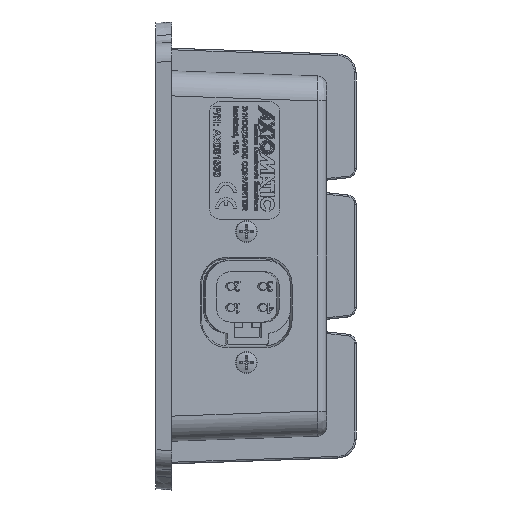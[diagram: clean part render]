
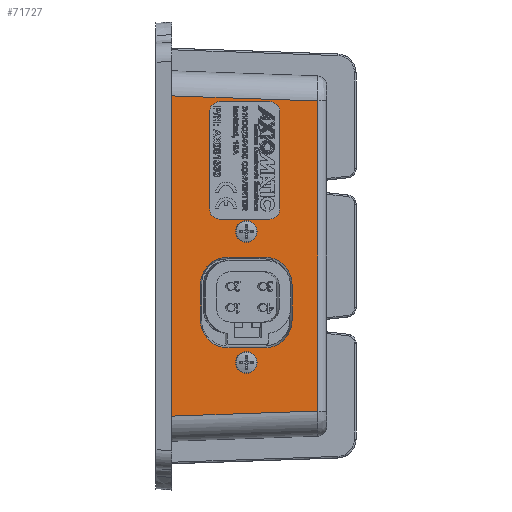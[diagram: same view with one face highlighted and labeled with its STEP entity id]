
A CAD part, left-side view. The second image highlights one B-rep face of the part: STEP entity #71727.
In plain terms, the highlighted planar face has unit normal (-0.999, -0.035, 0).
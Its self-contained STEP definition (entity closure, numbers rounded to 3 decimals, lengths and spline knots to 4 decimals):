
#5085=LINE('',#134242,#10849);
#5088=LINE('',#134250,#10852);
#5091=LINE('',#134258,#10855);
#5094=LINE('',#134265,#10858);
#5205=LINE('',#135441,#10969);
#5208=LINE('',#135452,#10972);
#5212=LINE('',#135464,#10976);
#5216=LINE('',#135478,#10980);
#5368=LINE('',#135853,#11132);
#5369=LINE('',#135855,#11133);
#5370=LINE('',#135857,#11134);
#5371=LINE('',#135858,#11135);
#10849=VECTOR('',#88045,1.21);
#10852=VECTOR('',#88054,0.625);
#10855=VECTOR('',#88063,1.21);
#10858=VECTOR('',#88072,0.625);
#10969=VECTOR('',#88499,0.444);
#10972=VECTOR('',#88510,0.456);
#10976=VECTOR('',#88522,0.444);
#10980=VECTOR('',#88536,0.456);
#11132=VECTOR('',#88828,1.8162);
#11133=VECTOR('',#88829,3.985);
#11134=VECTOR('',#88830,1.8162);
#11135=VECTOR('',#88831,3.8583);
#18223=PLANE('',#76267);
#20656=FACE_BOUND('',#27463,.T.);
#20657=FACE_BOUND('',#27464,.T.);
#20658=FACE_BOUND('',#27465,.T.);
#20659=FACE_BOUND('',#27466,.T.);
#20660=FACE_BOUND('',#27467,.T.);
#27463=EDGE_LOOP('',(#59793,#59794,#59795,#59796,#59797,#59798,#59799,#59800));
#27464=EDGE_LOOP('',(#59801));
#27465=EDGE_LOOP('',(#59802));
#27466=EDGE_LOOP('',(#59803,#59804,#59805,#59806));
#27467=EDGE_LOOP('',(#59807,#59808,#59809,#59810,#59811,#59812,#59813,#59814));
#29983=CIRCLE('',#76018,0.125);
#29984=CIRCLE('',#76021,0.125);
#29985=CIRCLE('',#76024,0.125);
#29986=CIRCLE('',#76027,0.125);
#30051=CIRCLE('',#76188,0.342);
#30053=CIRCLE('',#76192,0.342);
#30055=CIRCLE('',#76196,0.342);
#30058=CIRCLE('',#76201,0.342);
#30061=CIRCLE('',#76268,0.135);
#30062=CIRCLE('',#76269,0.135);
#34619=VERTEX_POINT('',#134235);
#34620=VERTEX_POINT('',#134236);
#34621=VERTEX_POINT('',#134241);
#34622=VERTEX_POINT('',#134245);
#34623=VERTEX_POINT('',#134249);
#34624=VERTEX_POINT('',#134253);
#34625=VERTEX_POINT('',#134257);
#34626=VERTEX_POINT('',#134261);
#34819=VERTEX_POINT('',#135435);
#34821=VERTEX_POINT('',#135439);
#34822=VERTEX_POINT('',#135443);
#34824=VERTEX_POINT('',#135449);
#34826=VERTEX_POINT('',#135455);
#34828=VERTEX_POINT('',#135461);
#34830=VERTEX_POINT('',#135467);
#34833=VERTEX_POINT('',#135475);
#34984=VERTEX_POINT('',#135847);
#34985=VERTEX_POINT('',#135849);
#34986=VERTEX_POINT('',#135851);
#34987=VERTEX_POINT('',#135852);
#34988=VERTEX_POINT('',#135854);
#34989=VERTEX_POINT('',#135856);
#43149=EDGE_CURVE('',#34619,#34620,#29983,.T.);
#43152=EDGE_CURVE('',#34620,#34621,#5085,.T.);
#43154=EDGE_CURVE('',#34621,#34622,#29984,.T.);
#43156=EDGE_CURVE('',#34622,#34623,#5088,.T.);
#43158=EDGE_CURVE('',#34623,#34624,#29985,.T.);
#43160=EDGE_CURVE('',#34624,#34625,#5091,.T.);
#43162=EDGE_CURVE('',#34625,#34626,#29986,.T.);
#43164=EDGE_CURVE('',#34626,#34619,#5094,.T.);
#43435=EDGE_CURVE('',#34819,#34821,#5205,.T.);
#43436=EDGE_CURVE('',#34822,#34821,#30051,.T.);
#43440=EDGE_CURVE('',#34822,#34824,#5208,.T.);
#43442=EDGE_CURVE('',#34826,#34824,#30053,.T.);
#43446=EDGE_CURVE('',#34826,#34828,#5212,.T.);
#43448=EDGE_CURVE('',#34830,#34828,#30055,.T.);
#43453=EDGE_CURVE('',#34830,#34833,#5216,.T.);
#43455=EDGE_CURVE('',#34819,#34833,#30058,.T.);
#43624=EDGE_CURVE('',#34984,#34984,#30061,.T.);
#43625=EDGE_CURVE('',#34985,#34985,#30062,.T.);
#43626=EDGE_CURVE('',#34986,#34987,#5368,.T.);
#43627=EDGE_CURVE('',#34986,#34988,#5369,.T.);
#43628=EDGE_CURVE('',#34989,#34988,#5370,.T.);
#43629=EDGE_CURVE('',#34987,#34989,#5371,.T.);
#59793=ORIENTED_EDGE('',*,*,#43149,.T.);
#59794=ORIENTED_EDGE('',*,*,#43152,.T.);
#59795=ORIENTED_EDGE('',*,*,#43154,.T.);
#59796=ORIENTED_EDGE('',*,*,#43156,.T.);
#59797=ORIENTED_EDGE('',*,*,#43158,.T.);
#59798=ORIENTED_EDGE('',*,*,#43160,.T.);
#59799=ORIENTED_EDGE('',*,*,#43162,.T.);
#59800=ORIENTED_EDGE('',*,*,#43164,.T.);
#59801=ORIENTED_EDGE('',*,*,#43624,.T.);
#59802=ORIENTED_EDGE('',*,*,#43625,.T.);
#59803=ORIENTED_EDGE('',*,*,#43626,.F.);
#59804=ORIENTED_EDGE('',*,*,#43627,.T.);
#59805=ORIENTED_EDGE('',*,*,#43628,.F.);
#59806=ORIENTED_EDGE('',*,*,#43629,.F.);
#59807=ORIENTED_EDGE('',*,*,#43446,.T.);
#59808=ORIENTED_EDGE('',*,*,#43448,.F.);
#59809=ORIENTED_EDGE('',*,*,#43453,.T.);
#59810=ORIENTED_EDGE('',*,*,#43455,.F.);
#59811=ORIENTED_EDGE('',*,*,#43435,.T.);
#59812=ORIENTED_EDGE('',*,*,#43436,.F.);
#59813=ORIENTED_EDGE('',*,*,#43440,.T.);
#59814=ORIENTED_EDGE('',*,*,#43442,.F.);
#71727=ADVANCED_FACE('',(#20656,#20657,#20658,#20659,#20660),#18223,.T.);
#76018=AXIS2_PLACEMENT_3D('',#134237,#88039,#88040);
#76021=AXIS2_PLACEMENT_3D('',#134246,#88049,#88050);
#76024=AXIS2_PLACEMENT_3D('',#134254,#88058,#88059);
#76027=AXIS2_PLACEMENT_3D('',#134262,#88067,#88068);
#76188=AXIS2_PLACEMENT_3D('',#135444,#88502,#88503);
#76192=AXIS2_PLACEMENT_3D('',#135456,#88514,#88515);
#76196=AXIS2_PLACEMENT_3D('',#135468,#88526,#88527);
#76201=AXIS2_PLACEMENT_3D('',#135481,#88540,#88541);
#76267=AXIS2_PLACEMENT_3D('',#135846,#88822,#88823);
#76268=AXIS2_PLACEMENT_3D('',#135848,#88824,#88825);
#76269=AXIS2_PLACEMENT_3D('',#135850,#88826,#88827);
#88039=DIRECTION('center_axis',(0.999,0.035,0.));
#88040=DIRECTION('ref_axis',(-0.035,0.999,0.));
#88045=DIRECTION('',(0.,0.,1.));
#88049=DIRECTION('center_axis',(0.999,0.035,0.));
#88050=DIRECTION('ref_axis',(0.,0.,
1.));
#88054=DIRECTION('',(0.035,-0.999,0.));
#88058=DIRECTION('center_axis',(0.999,0.035,0.));
#88059=DIRECTION('ref_axis',(0.035,-0.999,0.));
#88063=DIRECTION('',(0.,0.,-1.));
#88067=DIRECTION('center_axis',(0.999,0.035,0.));
#88068=DIRECTION('ref_axis',(0.,0.,
-1.));
#88072=DIRECTION('',(-0.035,0.999,0.));
#88499=DIRECTION('',(0.,0.,-1.));
#88502=DIRECTION('center_axis',(-0.999,-0.035,0.));
#88503=DIRECTION('ref_axis',(0.025,-0.707,-0.707));
#88510=DIRECTION('',(-0.035,0.999,0.));
#88514=DIRECTION('center_axis',(-0.999,-0.035,0.));
#88515=DIRECTION('ref_axis',(-0.025,0.707,-0.707));
#88522=DIRECTION('',(0.,0.,1.));
#88526=DIRECTION('center_axis',(-0.999,-0.035,0.));
#88527=DIRECTION('ref_axis',(-0.025,0.707,0.707));
#88536=DIRECTION('',(0.035,-0.999,0.));
#88540=DIRECTION('center_axis',(-0.999,-0.035,0.));
#88541=DIRECTION('ref_axis',(0.025,-0.707,0.707));
#88822=DIRECTION('center_axis',(-0.999,-0.035,0.));
#88823=DIRECTION('ref_axis',(0.,0.,1.));
#88824=DIRECTION('center_axis',(0.999,0.035,0.));
#88825=DIRECTION('ref_axis',(-0.035,0.999,0.));
#88826=DIRECTION('center_axis',(0.999,0.035,0.));
#88827=DIRECTION('ref_axis',(-0.035,0.999,0.));
#88828=DIRECTION('',(0.035,-0.999,-0.035));
#88829=DIRECTION('',(0.,0.,-1.));
#88830=DIRECTION('',(-0.035,0.999,-0.035));
#88831=DIRECTION('',(0.,0.,-1.));
#134235=CARTESIAN_POINT('',(-3.7656,1.2403,0.46));
#134236=CARTESIAN_POINT('',(-3.7699,1.3652,0.585));
#134237=CARTESIAN_POINT('Origin',(-3.7656,1.2403,0.585));
#134241=CARTESIAN_POINT('',(-3.7699,1.3652,1.795));
#134242=CARTESIAN_POINT('',(-3.7699,1.3652,2.0163));
#134245=CARTESIAN_POINT('',(-3.7656,1.2403,1.92));
#134246=CARTESIAN_POINT('Origin',(-3.7656,1.2403,1.795));
#134249=CARTESIAN_POINT('',(-3.7437,0.6157,1.92));
#134250=CARTESIAN_POINT('',(-3.733,0.3078,1.92));
#134253=CARTESIAN_POINT('',(-3.7394,0.4908,1.795));
#134254=CARTESIAN_POINT('Origin',(-3.7437,0.6157,1.795));
#134257=CARTESIAN_POINT('',(-3.7394,0.4908,0.585));
#134258=CARTESIAN_POINT('',(-3.7394,0.4908,1.4113));
#134261=CARTESIAN_POINT('',(-3.7437,0.6157,0.46));
#134262=CARTESIAN_POINT('Origin',(-3.7437,0.6157,0.585));
#134265=CARTESIAN_POINT('',(-3.7439,0.6201,0.46));
#135435=CARTESIAN_POINT('',(-3.734,0.3379,-0.356));
#135439=CARTESIAN_POINT('',(-3.734,0.3379,-0.8));
#135441=CARTESIAN_POINT('',(-3.734,0.3379,0.5578));
#135443=CARTESIAN_POINT('',(-3.746,0.6797,-1.142));
#135444=CARTESIAN_POINT('Origin',(-3.746,0.6797,-0.8));
#135449=CARTESIAN_POINT('',(-3.7619,1.1354,-1.142));
#135452=CARTESIAN_POINT('',(-3.7477,0.7286,-1.142));
#135455=CARTESIAN_POINT('',(-3.7738,1.4773,-0.8));
#135456=CARTESIAN_POINT('Origin',(-3.7619,1.1354,-0.8));
#135461=CARTESIAN_POINT('',(-3.7738,1.4773,-0.356));
#135464=CARTESIAN_POINT('',(-3.7738,1.4773,1.1018));
#135467=CARTESIAN_POINT('',(-3.7619,1.1354,-0.014));
#135468=CARTESIAN_POINT('Origin',(-3.7619,1.1354,-0.356));
#135475=CARTESIAN_POINT('',(-3.746,0.6797,-0.014));
#135478=CARTESIAN_POINT('',(-3.7285,0.1789,-0.014));
#135481=CARTESIAN_POINT('Origin',(-3.746,0.6797,-0.356));
#135846=CARTESIAN_POINT('Origin',(-3.7222,-0.0001,
2.2375));
#135847=CARTESIAN_POINT('',(-3.7587,1.0425,0.305));
#135848=CARTESIAN_POINT('Origin',(-3.7539,0.9076,0.305));
#135849=CARTESIAN_POINT('',(-3.7587,1.0425,-1.325));
#135850=CARTESIAN_POINT('Origin',(-3.7539,0.9076,-1.325));
#135851=CARTESIAN_POINT('',(-3.7863,1.835,1.9925));
#135852=CARTESIAN_POINT('',(-3.723,0.021,1.9292));
#135853=CARTESIAN_POINT('',(-3.7181,-0.1188,1.9243));
#135854=CARTESIAN_POINT('',(-3.7863,1.835,-1.9925));
#135855=CARTESIAN_POINT('',(-3.7863,1.835,1.1188));
#135856=CARTESIAN_POINT('',(-3.723,0.021,-1.9292));
#135857=CARTESIAN_POINT('',(-3.7199,-0.0672,-1.9261));
#135858=CARTESIAN_POINT('',(-3.723,0.021,2.2375));
